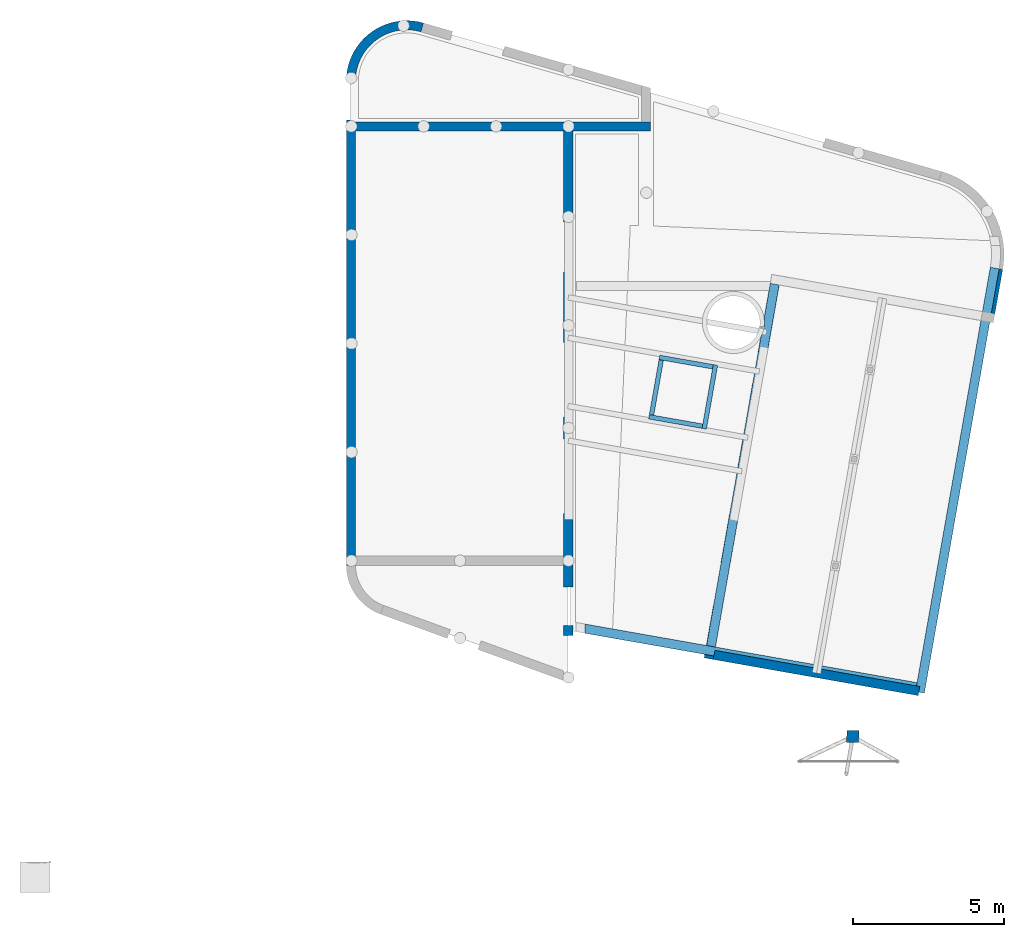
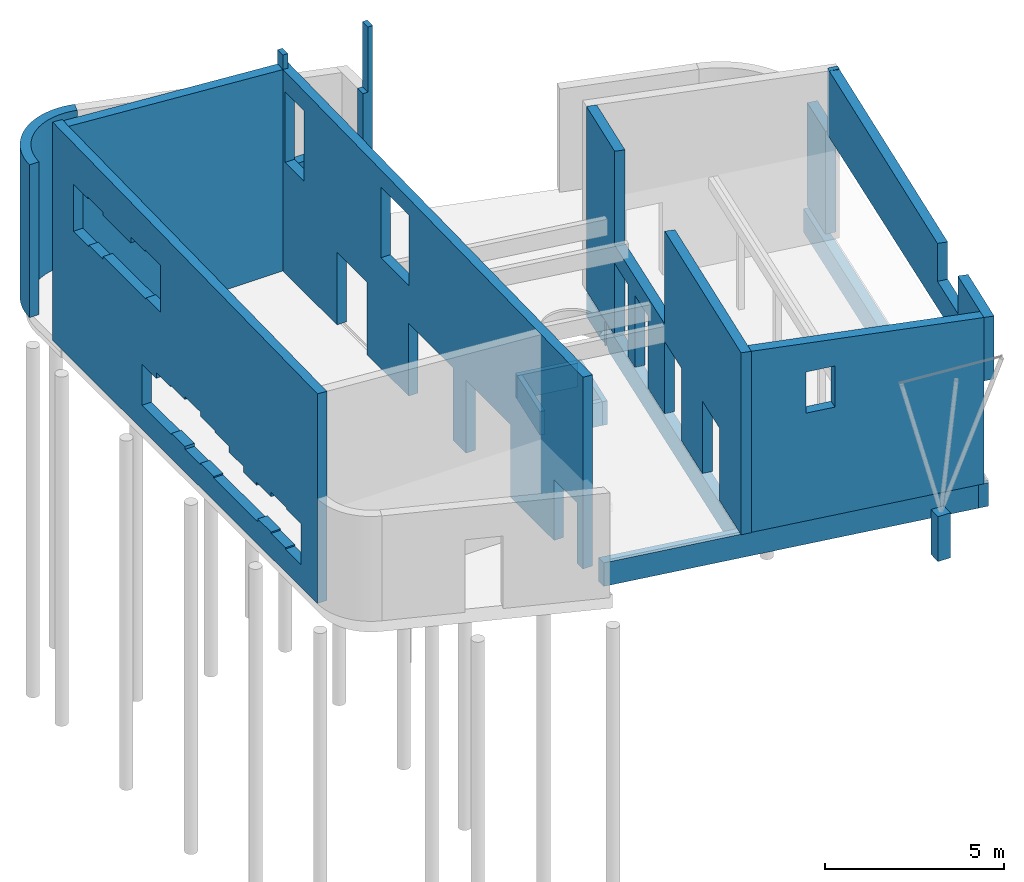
# One storey, part 2 of 3: 15 walls, 19 openings.
"""IFC2X3 building model written with IfcOpenShell, lengths in millimetres."""

from ifc_helpers import new_model, entity, si_unit, converted_unit, derived_unit, direction, frame, frame_2d, origin, place, context, subcontext, project, spatial, polyline, circle_curve, parameter, trimmed, segment, composite_curve, rectangle, outline, extrude, clip, bounded_halfspace, material, layer, layer_set, layer_usage, type_object, element, save


model = new_model("IFC2X3")

# Units and contexts
model_context = context("Model", 3, precision=0.01, world=origin(), true_north=direction((6.12303176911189e-17, 1.0)))
context_of_model = context(None, 3, precision=0.01, world=origin(), true_north=direction((6.12303176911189e-17, 1.0)))
body_context = subcontext(model_context, "Body", "Model", "MODEL_VIEW")
ifc_project = project(units=[si_unit("LENGTHUNIT", "METRE", prefix="MILLI"), si_unit("AREAUNIT", "SQUARE_METRE"), si_unit("VOLUMEUNIT", "CUBIC_METRE"), converted_unit("PLANEANGLEUNIT", "DEGREE", entity("IfcRatioMeasure", 0.0174532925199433), si_unit("PLANEANGLEUNIT", "RADIAN"), dimensions=[0, 0, 0, 0, 0, 0, 0]), si_unit("MASSUNIT", "GRAM", prefix="KILO"), derived_unit("MASSDENSITYUNIT", [(si_unit("MASSUNIT", "GRAM", prefix="KILO"), 1), (si_unit("LENGTHUNIT", "METRE"), -3)]), derived_unit("MOMENTOFINERTIAUNIT", [(si_unit("LENGTHUNIT", "METRE"), 4)]), si_unit("TIMEUNIT", "SECOND"), si_unit("FREQUENCYUNIT", "HERTZ"), si_unit("THERMODYNAMICTEMPERATUREUNIT", "DEGREE_CELSIUS"), derived_unit("THERMALTRANSMITTANCEUNIT", [(si_unit("MASSUNIT", "GRAM", prefix="KILO"), 1), (si_unit("THERMODYNAMICTEMPERATUREUNIT", "KELVIN"), -1), (si_unit("TIMEUNIT", "SECOND"), -3)]), derived_unit("VOLUMETRICFLOWRATEUNIT", [(si_unit("LENGTHUNIT", "METRE"), 3), (si_unit("TIMEUNIT", "SECOND"), -1)]), si_unit("ELECTRICCURRENTUNIT", "AMPERE"), si_unit("ELECTRICVOLTAGEUNIT", "VOLT"), si_unit("POWERUNIT", "WATT"), si_unit("FORCEUNIT", "NEWTON", prefix="KILO"), si_unit("ILLUMINANCEUNIT", "LUX"), si_unit("LUMINOUSFLUXUNIT", "LUMEN"), si_unit("LUMINOUSINTENSITYUNIT", "CANDELA"), derived_unit("USERDEFINED", [(si_unit("MASSUNIT", "GRAM", prefix="KILO"), -1), (si_unit("LENGTHUNIT", "METRE"), -2), (si_unit("TIMEUNIT", "SECOND"), 3), (si_unit("LUMINOUSFLUXUNIT", "LUMEN"), 1)]), derived_unit("LINEARVELOCITYUNIT", [(si_unit("LENGTHUNIT", "METRE"), 1), (si_unit("TIMEUNIT", "SECOND"), -1)]), si_unit("PRESSUREUNIT", "PASCAL"), derived_unit("USERDEFINED", [(si_unit("LENGTHUNIT", "METRE"), -2), (si_unit("MASSUNIT", "GRAM", prefix="KILO"), 1), (si_unit("TIMEUNIT", "SECOND"), -2)]), derived_unit("LINEARFORCEUNIT", [(si_unit("MASSUNIT", "GRAM", prefix="KILO"), 1), (si_unit("LENGTHUNIT", "METRE"), 1), (si_unit("TIMEUNIT", "SECOND"), -2), (si_unit("LENGTHUNIT", "METRE"), -1)]), derived_unit("PLANARFORCEUNIT", [(si_unit("MASSUNIT", "GRAM", prefix="KILO"), 1), (si_unit("LENGTHUNIT", "METRE"), 1), (si_unit("TIMEUNIT", "SECOND"), -2), (si_unit("LENGTHUNIT", "METRE"), -2)])], contexts=[model_context, context_of_model])

# Site, building, storey
site_placement = place(None, origin())
site = spatial("IfcSite", under=ifc_project, at=site_placement, Name="Default", CompositionType="ELEMENT")
building_placement = place(site_placement, origin())
building = spatial("IfcBuilding", under=site, at=building_placement, Name="IFc", CompositionType="ELEMENT")
storey_placement = place(building_placement, frame((0.0, 0.0, -70.0)))
storey = spatial("IfcBuildingStorey", under=building, at=storey_placement, Name="00 begane grond b.k. ruwe vloer", CompositionType="ELEMENT", Elevation=-70.0)

# Wall, opening
ifc_material_1 = material(Name="IMd_underlayment")
ifc_layer_1 = layer(ifc_material_1, 18.0)
ifc_material_2 = material(Name="IMd_hout")
ifc_layer_2 = layer(ifc_material_2, 270.0)
ifc_layer_3 = layer(ifc_material_1, 18.0)
ifc_layer_set_1 = layer_set([ifc_layer_1, ifc_layer_2, ifc_layer_3], Name="Basic Wall:NLRS_28_WA HSB_d=271")
ifc_layer_usage_1 = layer_usage(ifc_layer_set_1, "AXIS2", "NEGATIVE", 153.0)
wall_type_1 = type_object("IfcWallType", Name="Basic Wall:NLRS_28_WA HSB_d=271", PredefinedType="STANDARD", material=ifc_layer_set_1)
wall_1_placement = place(storey_placement, frame((19912.6696056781, 24397.0, 70.0), z_axis=(0.0, 0.0, 1.0), x_axis=(-1.0, 0.0, 0.0)))
wall_1 = element("IfcWallStandardCase", 1, at=wall_1_placement, inside=storey, type_object=wall_type_1, material=ifc_layer_usage_1, Name="Basic Wall:NLRS_28_WA HSB_d=271", ObjectType="Basic Wall:NLRS_28_WA HSB_d=271", context=body_context, shape_type="Clipping", body=[
    clip(extrude(rectangle(XDim=9787.66960567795, YDim=306.0, at=frame_2d((4893.83480283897, -5.25801624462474e-13), x_axis=(-1.0, 0.0))), origin(), (0.0, 0.0, 1.0), 7346.55553547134), bounded_halfspace(frame((2887.66960567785, -153.0, 6861.70889047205), z_axis=(0.0700806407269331, -0.0200951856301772, -0.997338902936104), x_axis=(0.958704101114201, -0.274902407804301, 0.0729048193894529)), True, frame((2887.66960567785, -153.0, 6861.70889047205)), polyline([(0.0, 0.0), (6900.0, 0.0), (6900.0, 306.0), (0.0, 306.0), (0.0, 0.0)]))),
])
opening_1_placement = place(wall_1_placement, origin())
element("IfcOpeningElement", 2, at=opening_1_placement, cuts=wall_1, Name="Basic Wall:NLRS_28_WA HSB_d=271", ObjectType="Opening", context=body_context, shape_type="SweptSolid", body=[
    extrude(outline(polyline([(-1670.11307045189, -4243.33333333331), (911.556535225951, -4243.33333333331), (911.556535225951, 1306.66666666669), (758.556535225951, 1306.66666666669), (758.556535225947, 2936.66666666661), (-1670.1130704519, 2936.66666666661), (-1670.11307045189, -4243.33333333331)])), frame((1064.55653522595, 153.0, 6436.66666666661), z_axis=(0.0, -1.0, 0.0), x_axis=(-1.0, 0.0, 0.0)), (0.0, 0.0, 1.0), 306.0),
])

# Wall, openings
ifc_layer_usage_2 = layer_usage(ifc_layer_set_1, "AXIS2", "NEGATIVE", 153.0)
wall_2_placement = place(storey_placement, frame((17178.0, 5903.98538399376, 60.0), z_axis=(0.0, 0.0, 1.0), x_axis=(0.0, 1.0, 0.0)))
wall_2 = element("IfcWallStandardCase", 3, at=wall_2_placement, inside=storey, type_object=wall_type_1, material=ifc_layer_usage_2, Name="Basic Wall:NLRS_28_WA HSB_d=271", ObjectType="Basic Wall:NLRS_28_WA HSB_d=271", context=body_context, shape_type="Clipping", body=[
    clip(clip(extrude(outline(polyline([(1619.46869295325, -153.0), (18646.0146160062, -153.0), (18646.0146160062, 153.0), (18340.0146160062, 153.0), (4246.01461600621, 153.0), (3940.01461600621, 153.0), (1619.46869295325, 153.0), (1619.46869295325, -153.0)])), origin(), (0.0, 0.0, 1.0), 6871.70889047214), bounded_halfspace(frame((1619.46869295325, -153.0, 6507.1424668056), z_axis=(0.0200951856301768, 0.0700806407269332, -0.997338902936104), x_axis=(0.274902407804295, 0.958704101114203, 0.0729048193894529)), True, frame((1619.46869295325, -153.0, 6507.1424668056)), polyline([(0.0, 0.0), (17026.545923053, 0.0), (17026.545923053, 306.0), (16720.545923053, 306.0), (2626.54592305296, 306.0), (2320.54592305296, 306.0), (0.0, 306.0), (0.0, 0.0)]))), bounded_halfspace(frame((18340.0146160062, -153.0, 10.0), z_axis=(-1.0, 0.0, 0.0), x_axis=(0.0, -1.0, 0.0)), True, frame((18340.0146160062, -153.0, 10.0), z_axis=(-1.0, 0.0, 0.0), x_axis=(0.0, -1.0, 0.0)), polyline([(0.0, 0.0), (0.0, 3500.0), (-306.0, 3500.0), (-306.0, 0.0), (0.0, 0.0)]))),
])
opening_2_placement = place(wall_2_placement, origin())
element("IfcOpeningElement", 4, at=opening_2_placement, cuts=wall_2, Name="Basic Wall:NLRS_28_WA HSB_d=271", ObjectType="Opening", context=body_context, shape_type="SweptSolid", body=[
    extrude(rectangle(XDim=2400.0, YDim=1567.0, at=frame_2d((0.0, 0.0), x_axis=(0.0, 1.0))), frame((12094.6040001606, 153.0, 4970.0), z_axis=(0.0, -1.0, 0.0), x_axis=(-1.0, 0.0, 0.0)), (0.0, 0.0, 1.0), 306.0),
])
opening_3_placement = place(wall_2_placement, origin())
element("IfcOpeningElement", 5, at=opening_3_placement, cuts=wall_2, Name="Basic Wall:NLRS_28_WA HSB_d=271", ObjectType="Opening", context=body_context, shape_type="SweptSolid", body=[
    extrude(rectangle(XDim=2400.00000000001, YDim=1064.0, at=frame_2d((0.0, 0.0), x_axis=(0.0, 1.0))), frame((17702.0146160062, 153.0, 4970.0), z_axis=(0.0, -1.0, 0.0), x_axis=(-1.0, 0.0, 0.0)), (0.0, 0.0, 1.0), 306.0),
])
opening_4_placement = place(wall_2_placement, origin())
element("IfcOpeningElement", 6, at=opening_4_placement, cuts=wall_2, Name="Basic Wall:NLRS_28_WA HSB_d=271", ObjectType="Opening", context=body_context, shape_type="SweptSolid", body=[
    extrude(rectangle(XDim=2070.0, YDim=1280.00000000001, at=frame_2d((0.0, -4.54747350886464e-13), x_axis=(0.0, 1.0))), frame((2584.75540203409, 153.0, 1035.0), z_axis=(0.0, -1.0, 0.0), x_axis=(1.0, 0.0, 0.0)), (0.0, 0.0, 1.0), 306.0),
])
opening_5_placement = place(wall_2_placement, origin())
element("IfcOpeningElement", 7, at=opening_5_placement, cuts=wall_2, Name="Basic Wall:NLRS_28_WA HSB_d=271", ObjectType="Opening", context=body_context, shape_type="SweptSolid", body=[
    extrude(rectangle(XDim=2470.00000000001, YDim=2467.0, at=frame_2d((0.0, 0.0), x_axis=(0.0, 1.0))), frame((6896.01461570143, 153.0, 1235.0), z_axis=(0.0, -1.0, 0.0), x_axis=(1.0, 0.0, 0.0)), (0.0, 0.0, 1.0), 306.0),
])
opening_6_placement = place(wall_2_placement, origin())
element("IfcOpeningElement", 8, at=opening_6_placement, cuts=wall_2, Name="Basic Wall:NLRS_28_WA HSB_d=271", ObjectType="Opening", context=body_context, shape_type="SweptSolid", body=[
    extrude(rectangle(XDim=2470.0, YDim=2467.0, at=frame_2d((0.0, 0.0), x_axis=(0.0, 1.0))), frame((10096.0146157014, 153.0, 1235.0), z_axis=(0.0, -1.0, 0.0), x_axis=(1.0, 0.0, 0.0)), (0.0, 0.0, 1.0), 306.0),
])
opening_7_placement = place(wall_2_placement, origin())
element("IfcOpeningElement", 9, at=opening_7_placement, cuts=wall_2, Name="Basic Wall:NLRS_28_WA HSB_d=271", ObjectType="Opening", context=body_context, shape_type="SweptSolid", body=[
    extrude(rectangle(XDim=2469.99999999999, YDim=1667.00000000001, at=frame_2d((-2.1600499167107e-12, -2.38742359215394e-12), x_axis=(0.0, 1.0))), frame((14496.0146160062, 153.0, 1235.0), z_axis=(0.0, -1.0, 0.0), x_axis=(1.0, 0.0, 0.0)), (0.0, 0.0, 1.0), 306.0),
])
opening_8_placement = place(wall_2_placement, origin())
element("IfcOpeningElement", 10, at=opening_8_placement, cuts=wall_2, Name="Basic Wall:NLRS_28_WA HSB_d=271", ObjectType="Opening", context=body_context, shape_type="SweptSolid", body=[
    extrude(rectangle(XDim=7190.00000000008, YDim=1400.98239480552, at=frame_2d((-5.6843418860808e-13, 1.13686837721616e-12), x_axis=(0.0, 1.0))), frame((918.977495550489, 153.0, 7095.0), z_axis=(0.0, -1.0, 0.0), x_axis=(-1.0, 0.0, 0.0)), (0.0, 0.0, 1.0), 306.0),
])
opening_9_placement = place(wall_2_placement, origin())
element("IfcOpeningElement", 11, at=opening_9_placement, cuts=wall_2, Name="Basic Wall:NLRS_28_WA HSB_d=271", ObjectType="Opening", context=body_context, shape_type="SweptSolid", body=[
    extrude(rectangle(XDim=2070.0, YDim=1199.26721811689, at=frame_2d((0.0, 4.54747350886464e-13), x_axis=(0.0, 1.0))), frame((1007.61038852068, 153.0, 1035.0), z_axis=(0.0, -1.0, 0.0), x_axis=(1.0, 0.0, 0.0)), (0.0, 0.0, 1.0), 306.0),
])

ifc_layer_usage_3 = layer_usage(ifc_layer_set_1, "AXIS2", "NEGATIVE", 153.0)
wall_3_placement = place(storey_placement, frame((9972.0, 25897.4538590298, 0.0), z_axis=(0.0, 0.0, 1.0), x_axis=(0.0, -1.0, 0.0)))
wall_3 = element("IfcWallStandardCase", 12, at=wall_3_placement, inside=storey, type_object=wall_type_1, material=ifc_layer_usage_3, Name="Basic Wall:NLRS_28_WA HSB_d=271", ObjectType="Basic Wall:NLRS_28_WA HSB_d=271", context=body_context, shape_type="Clipping", body=[
    clip(extrude(outline(polyline([(1286.08411395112, -153.0), (16053.8255288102, -153.0), (16053.4538590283, 153.0), (15747.4538590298, 153.0), (1653.45385902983, 153.0), (1347.45385902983, 153.0), (1286.08411395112, 153.0), (1286.08411395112, -153.0)])), origin(), (0.0, 0.0, 1.0), 7439.29395710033), bounded_halfspace(frame((1286.08411395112, -153.0, 7439.29395710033), z_axis=(-0.0200951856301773, -0.0700806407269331, -0.997338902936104), x_axis=(-0.274902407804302, -0.958704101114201, 0.0729048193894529)), True, frame((1286.08411395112, -153.0, 7439.29395710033)), polyline([(0.0, 0.0), (14767.7414148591, 0.0), (14767.3697450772, 306.0), (14461.3697450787, 306.0), (367.369745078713, 306.0), (61.3697450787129, 306.0), (0.0, 306.0), (0.0, 0.0)]))),
])
opening_10_placement = place(wall_3_placement, origin())
element("IfcOpeningElement", 13, at=opening_10_placement, cuts=wall_3, Name="Basic Wall:NLRS_28_WA HSB_d=271", ObjectType="Opening", context=body_context, shape_type="SweptSolid", body=[
    extrude(outline(polyline([(-2434.15789473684, -928.947368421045), (-1571.15789473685, -928.947368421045), (-1571.15789473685, -878.947368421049), (-771.157894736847, -878.947368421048), (-771.157894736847, -778.947368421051), (1584.84210526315, -778.947368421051), (1628.84210526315, -778.947368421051), (1628.84210526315, -728.947368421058), (2428.84210526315, -728.947368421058), (2428.84210526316, 871.05263157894), (1565.84210526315, 871.052631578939), (1565.84210526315, 821.052631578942), (765.842105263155, 821.052631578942), (765.842105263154, 621.052631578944), (-771.157894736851, 621.052631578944), (-771.157894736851, 721.052631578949), (-1634.15789473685, 721.052631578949), (-1634.15789473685, 671.052631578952), (-2434.15789473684, 671.052631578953), (-2434.15789473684, -928.947368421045)])), frame((4877.24780486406, 153.0, 5348.94736842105), z_axis=(0.0, -1.0, 0.0), x_axis=(1.0, 0.0, 0.0)), (0.0, 0.0, 1.0), 306.0),
])
opening_11_placement = place(wall_3_placement, origin())
element("IfcOpeningElement", 14, at=opening_11_placement, cuts=wall_3, Name="Basic Wall:NLRS_28_WA HSB_d=271", ObjectType="Opening", context=body_context, shape_type="SweptSolid", body=[
    extrude(outline(polyline([(-842.105263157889, -2872.10526315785), (-842.105263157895, -4535.10526315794), (557.894736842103, -4535.10526315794), (557.894736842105, -3735.10526315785), (757.894736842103, -3735.10526315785), (757.894736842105, -2935.10526315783), (807.894736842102, -2935.10526315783), (807.894736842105, -2135.10526315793), (907.894736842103, -2135.10526315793), (907.894736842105, -1272.10526315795), (757.894736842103, -1272.10526315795), (757.894736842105, -472.105263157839), (707.894736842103, -472.105263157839), (707.894736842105, 327.894736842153), (507.894736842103, 327.894736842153), (507.894736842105, 1127.89473684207), (307.894736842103, 1127.89473684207), (307.894736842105, 1864.89473684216), (407.894736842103, 1864.89473684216), (407.894736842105, 2664.89473684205), (557.894736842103, 2664.89473684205), (557.894736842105, 3527.89473684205), (507.894736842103, 3527.89473684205), (507.894736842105, 4327.89473684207), (-892.105263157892, 4327.89473684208), (-892.105263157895, 3464.89473684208), (-842.105263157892, 3464.89473684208), (-842.105263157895, 2664.89473684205), (-792.105263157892, 2664.89473684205), (-792.105263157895, 1927.89473684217), (-892.105263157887, 1927.89473684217), (-892.105263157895, -535.105263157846), (-842.105263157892, -535.105263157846), (-842.105263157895, -1272.10526315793), (-892.105263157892, -1272.10526315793), (-892.105263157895, -2135.10526315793), (-792.105263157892, -2135.10526315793), (-792.105263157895, -2872.10526315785), (-842.105263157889, -2872.10526315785)])), frame((10801.0591221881, 153.0, 1662.1052631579), z_axis=(0.0, 1.0, 0.0), x_axis=(0.0, 0.0, 1.0)), (0.0, 0.0, -1.0), 306.0),
])
opening_12_placement = place(wall_3_placement, origin())
element("IfcOpeningElement", 15, at=opening_12_placement, cuts=wall_3, Name="Basic Wall:NLRS_28_WA HSB_d=271", ObjectType="Opening", context=body_context, shape_type="SweptSolid", body=[
    extrude(rectangle(XDim=5550.0, YDim=1285.91700239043, at=frame_2d((2.1600499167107e-12, 1.59161572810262e-12), x_axis=(0.0, 1.0))), frame((643.125612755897, 153.0, 7975.0), z_axis=(0.0, -1.0, 0.0), x_axis=(-1.0, 0.0, 0.0)), (0.0, 0.0, 1.0), 306.0),
])

# Wall
ifc_layer_usage_4 = layer_usage(ifc_layer_set_1, "AXIS2", "POSITIVE", -153.0)
wall_4_placement = place(storey_placement, frame((9971.99964898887, 25897.1261254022, 0.0)))
element("IfcWallStandardCase", 16, at=wall_4_placement, inside=storey, type_object=wall_type_1, material=ifc_layer_usage_4, Name="Basic Wall:NLRS_28_WA HSB_d=271", ObjectType="Basic Wall:NLRS_28_WA HSB_d=271", context=body_context, shape_type="SweptSolid", body=[
    extrude(outline(composite_curve([segment(trimmed(circle_curve(frame_2d((1856.07848287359, -3.97582175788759), x_axis=(1.0, 0.0)), 2009.08274108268), [parameter(73.9929851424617)], [parameter(179.877269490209)], True, "PARAMETER"), True, "CONTINUOUS"), segment(polyline([(-152.999648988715, 0.327733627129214), (153.000351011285, -0.013531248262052)]), True, "CONTINUOUS"), segment(trimmed(circle_curve(frame_2d((1856.07848287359, -3.97582175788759), x_axis=(1.0, 0.0)), 1703.08274108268), [parameter(73.9929851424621)], [parameter(179.866698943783)], True, "PARAMETER"), False, "CONTINUOUS"), segment(polyline([(2325.71213786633, 1633.07489617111), (2410.09318111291, 1927.21064636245)]), True, "CONTINUOUS")], self_intersect=False)), origin(), (0.0, 0.0, 1.0), 5200.0),
])

# Wall, openings
ifc_layer_usage_5 = layer_usage(ifc_layer_set_1, "AXIS2", "NEGATIVE", 153.0)
wall_5_placement = place(storey_placement, frame((24025.4009590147, 19161.6606302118, 50.0), z_axis=(0.0, 0.0, 1.0), x_axis=(-0.173648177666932, -0.984807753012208, 0.0)))
wall_5 = element("IfcWallStandardCase", 17, at=wall_5_placement, inside=storey, type_object=wall_type_1, material=ifc_layer_usage_5, Name="Basic Wall:NLRS_28_WA HSB_d=271", ObjectType="Basic Wall:NLRS_28_WA HSB_d=271", context=body_context, shape_type="Clipping", body=[
    clip(clip(extrude(rectangle(XDim=12606.0, YDim=306.000000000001, at=frame_2d((6303.0, -1.08002495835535e-12), x_axis=(-1.0, 0.0))), origin(), (0.0, 0.0, 1.0), 6292.36164978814), bounded_halfspace(frame((6384.0, -153.0, 6243.58244995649), z_axis=(-0.00762051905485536, -0.0725054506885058, -0.997338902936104), x_axis=(-0.104248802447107, -0.991875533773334, 0.0729048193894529)), True, frame((6384.0, -153.0, 6243.58244995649)), polyline([(0.0, 0.0), (6222.0, 0.0), (6222.0, 306.0), (5916.0, 306.0), (0.0, 306.0), (0.0, 0.0)]))), bounded_halfspace(frame((0.0, -153.0, 6292.36164978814), z_axis=(-0.00762051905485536, -0.0725054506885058, -0.997338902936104), x_axis=(-0.104248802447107, -0.991875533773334, 0.0729048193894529)), True, frame((0.0, -153.0, 6292.36164978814)), polyline([(0.0, 0.0), (2300.0, 0.0), (2300.0, 306.0), (0.0, 306.0), (0.0, 0.0)]))),
])
opening_13_placement = place(wall_5_placement, origin())
element("IfcOpeningElement", 18, at=opening_13_placement, cuts=wall_5, Name="Basic Wall:NLRS_28_WA HSB_d=271", ObjectType="Opening", context=body_context, shape_type="SweptSolid", body=[
    extrude(rectangle(XDim=2457.0, YDim=1084.0, at=frame_2d((0.0, 0.0), x_axis=(0.0, 1.0))), frame((4492.0, 153.0, 1228.5), z_axis=(0.0, -1.0, 0.0), x_axis=(1.0, 0.0, 0.0)), (0.0, 0.0, 1.0), 306.0),
])
opening_14_placement = place(wall_5_placement, origin())
element("IfcOpeningElement", 19, at=opening_14_placement, cuts=wall_5, Name="Basic Wall:NLRS_28_WA HSB_d=271", ObjectType="Opening", context=body_context, shape_type="SweptSolid", body=[
    extrude(outline(polyline([(-3020.60000000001, -996.0), (3082.40000000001, -996.0), (3082.40000000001, -986.0), (1479.4, -986.0), (1479.4, 1484.0), (79.399999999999, 1484.0), (79.3999999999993, -986.0), (-1620.6, -986.0), (-1620.6, 1484.0), (-3020.60000000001, 1484.0), (-3020.60000000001, -996.0)])), frame((9370.6, 153.0, 996.0), z_axis=(0.0, -1.0, 0.0), x_axis=(1.0, 0.0, 0.0)), (0.0, 0.0, 1.0), 306.0),
])
opening_15_placement = place(wall_5_placement, origin())
element("IfcOpeningElement", 20, at=opening_15_placement, cuts=wall_5, Name="Basic Wall:NLRS_28_WA HSB_d=271", ObjectType="Opening", context=body_context, shape_type="SweptSolid", body=[
    extrude(rectangle(XDim=7619.99999999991, YDim=4083.99999999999, at=frame_2d((4.32009983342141e-12, 0.0), x_axis=(0.0, 1.0))), frame((4342.0, 153.0, 6890.0), z_axis=(0.0, -1.0, 0.0), x_axis=(-1.0, 0.0, 0.0)), (0.0, 0.0, 1.0), 306.0),
])
opening_16_placement = place(wall_5_placement, origin())
element("IfcOpeningElement", 21, at=opening_16_placement, cuts=wall_5, Name="Basic Wall:NLRS_28_WA HSB_d=271", ObjectType="Opening", context=body_context, shape_type="SweptSolid", body=[
    extrude(outline(polyline([(812.333333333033, -2002.0), (822.333333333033, -2002.0), (822.333333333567, 1543.0), (-1634.66666666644, 1543.0), (-1634.6666666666, 459.0), (812.333333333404, 459.0), (812.333333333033, -2002.0)])), frame((1849.0, 153.0, 822.333333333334), z_axis=(0.0, -1.0, 0.0), x_axis=(0.0, 0.0, -1.0)), (0.0, 0.0, 1.0), 306.0),
])

# Wall, opening
ifc_layer_usage_6 = layer_usage(ifc_layer_set_1, "AXIS2", "NEGATIVE", 153.0)
wall_6_placement = place(storey_placement, frame((28808.8142595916, 5673.10820762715, 60.0), z_axis=(0.0, 0.0, 1.0), x_axis=(-0.984807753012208, 0.173648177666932, 0.0)))
wall_6 = element("IfcWallStandardCase", 22, at=wall_6_placement, inside=storey, type_object=wall_type_1, material=ifc_layer_usage_6, Name="Basic Wall:NLRS_28_WA HSB_d=271", ObjectType="Basic Wall:NLRS_28_WA HSB_d=271", context=body_context, shape_type="Clipping", body=[
    clip(extrude(rectangle(XDim=6900.00505181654, YDim=306.0, at=frame_2d((3450.00252590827, -4.68958205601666e-13), x_axis=(-1.0, 0.0))), origin(), (0.0, 0.0, 1.0), 6166.13330258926), bounded_halfspace(frame((0.0101037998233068, -153.0, 5664.51119401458), z_axis=(0.0725054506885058, -0.00762051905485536, -0.997338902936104), x_axis=(0.991875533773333, -0.104248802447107, 0.0729048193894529)), True, frame((0.0101037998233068, -153.0, 5664.51119401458)), polyline([(0.0, 0.0), (6899.99494801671, 0.0), (6899.99494801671, 306.0), (-0.0101037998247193, 306.0), (0.0, 0.0)]))),
])
opening_17_placement = place(wall_6_placement, origin())
element("IfcOpeningElement", 23, at=opening_17_placement, cuts=wall_6, Name="Basic Wall:NLRS_28_WA HSB_d=271", ObjectType="Opening", context=body_context, shape_type="SweptSolid", body=[
    extrude(rectangle(XDim=1400.0, YDim=863.000000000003, at=frame_2d((2.8421709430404e-13, 2.21689333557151e-12), x_axis=(1.0, 0.0))), frame((4850.00505181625, 153.0, 4370.0), z_axis=(0.0, -1.0, 0.0), x_axis=(0.0, 0.0, -1.0)), (0.0, 0.0, 1.0), 306.0),
])

# Wall, openings
ifc_layer_usage_7 = layer_usage(ifc_layer_set_1, "AXIS2", "NEGATIVE", 153.0)
wall_7_placement = place(storey_placement, frame((31433.4178219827, 19679.6214014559, 60.0), z_axis=(0.0, 0.0, 1.0), x_axis=(-0.173615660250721, -0.984813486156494, 0.0)))
wall_7 = element("IfcWallStandardCase", 24, at=wall_7_placement, inside=storey, type_object=wall_type_1, material=ifc_layer_usage_7, Name="Basic Wall:NLRS_28_WA HSB_d=271", ObjectType="Basic Wall:NLRS_28_WA HSB_d=271", context=body_context, shape_type="Clipping", body=[
    clip(clip(clip(extrude(rectangle(XDim=14402.4854714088, YDim=305.999999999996, at=frame_2d((7201.2427357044, -2.8421709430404e-14), x_axis=(-1.0, 0.0))), origin(), (0.0, 0.0, 1.0), 5758.52320032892), bounded_halfspace(frame((12277.9916057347, -153.0, 5678.41032464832), z_axis=(-0.00762291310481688, -0.0725051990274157, -0.997338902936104), x_axis=(-0.104281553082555, -0.991872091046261, 0.0729048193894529)), True, frame((12277.9916057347, -153.0, 5678.41032464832)), polyline([(0.0, 0.0), (1818.48376170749, 0.0), (2124.48376187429, 0.0), (2124.49386567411, 306.0), (-0.000196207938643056, 306.0), (0.0, 0.0)]))), bounded_halfspace(frame((1796.47536073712, -153.0, 5758.52320032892), z_axis=(-0.00762291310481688, -0.0725051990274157, -0.997338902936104), x_axis=(-0.104281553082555, -0.991872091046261, 0.0729048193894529)), True, frame((1796.47536073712, -153.0, 5758.52320032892)), polyline([(0.0, 0.0), (8818.48990496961, 0.0), (8818.4899049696, 306.0), (0.0101037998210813, 306.0), (0.0, 0.0)]))), bounded_halfspace(frame((1490.47536057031, -153.0, 3500.0), z_axis=(-1.0, 3.30189536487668e-05, 0.0), x_axis=(-3.30189536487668e-05, -1.0, 0.0)), True, frame((1490.47536057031, -153.0, 3500.0), z_axis=(-1.0, 3.30189536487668e-05, 0.0), x_axis=(-3.30189536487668e-05, -1.0, 0.0)), polyline([(0.0, 0.0), (-306.0, 0.0), (-306.0, -3500.0), (0.0, -3500.0), (0.0, 0.0)]))),
])
opening_18_placement = place(wall_7_placement, origin())
element("IfcOpeningElement", 25, at=opening_18_placement, cuts=wall_7, Name="Basic Wall:NLRS_28_WA HSB_d=271", ObjectType="Opening", context=body_context, shape_type="SweptSolid", body=[
    extrude(outline(polyline([(-831.549140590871, -3145.0), (831.521401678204, -3145.0), (831.521401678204, 3145.0), (-831.493662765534, 3145.0), (-831.549140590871, -3145.0)])), frame((11446.4866673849, 153.0, 7545.0), z_axis=(0.0, -1.0, 0.0), x_axis=(-1.0, 0.0, 0.0)), (0.0, 0.0, 1.0), 306.0),
])
opening_19_placement = place(wall_7_placement, origin())
element("IfcOpeningElement", 26, at=opening_19_placement, cuts=wall_7, Name="Basic Wall:NLRS_28_WA HSB_d=271", ObjectType="Opening", context=body_context, shape_type="SweptSolid", body=[
    extrude(rectangle(XDim=7190.0, YDim=1643.48041255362, at=frame_2d((-2.50111042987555e-12, -4.54747350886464e-13), x_axis=(0.0, 1.0))), frame((821.740206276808, 153.0, 7095.0), z_axis=(0.0, -1.0, 0.0), x_axis=(-1.0, 0.0, 0.0)), (0.0, 0.0, 1.0), 306.0),
])

# Walls
ifc_material_3 = material(Name="IMd_beton_prefab")
ifc_layer_4 = layer(ifc_material_3, 300.0)
ifc_layer_set_2 = layer_set([ifc_layer_4], Name="Basic Wall:NLRS_16_WA Funderingsbalk_beton_prefab_300x800")
ifc_layer_usage_8 = layer_usage(ifc_layer_set_2, "AXIS2", "NEGATIVE", 150.0)
wall_type_2 = type_object("IfcWallType", Name="Basic Wall:NLRS_16_WA Funderingsbalk_beton_prefab_300x800", PredefinedType="STANDARD", material=ifc_layer_set_2)
wall_8_placement = place(storey_placement, frame((31320.0072792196, 19698.6966853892, -820.0), z_axis=(0.0, 0.0, 1.0), x_axis=(-0.173615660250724, -0.984813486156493, 0.0)))
element("IfcWallStandardCase", 27, at=wall_8_placement, inside=storey, type_object=wall_type_2, material=ifc_layer_usage_8, Name="Basic Wall:NLRS_16_WA Funderingsbalk_beton_prefab_300x800", ObjectType="Basic Wall:NLRS_16_WA Funderingsbalk_beton_prefab_300x800", context=body_context, shape_type="SweptSolid", body=[
    extrude(rectangle(XDim=14283.5773257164, YDim=299.999999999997, at=frame_2d((7141.78866285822, -7.53175299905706e-13), x_axis=(-1.0, 0.0))), origin(), (0.0, 0.0, 1.0), 800.0),
])
ifc_layer_usage_9 = layer_usage(ifc_layer_set_2, "AXIS2", "NEGATIVE", 150.0)
wall_9_placement = place(storey_placement, frame((28718.4814945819, 5805.81037170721, -820.0), z_axis=(0.0, 0.0, 1.0), x_axis=(-0.984807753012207, 0.173648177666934, 0.0)))
element("IfcWallStandardCase", 28, at=wall_9_placement, inside=storey, type_object=wall_type_2, material=ifc_layer_usage_9, Name="Basic Wall:NLRS_16_WA Funderingsbalk_beton_prefab_300x800", ObjectType="Basic Wall:NLRS_16_WA Funderingsbalk_beton_prefab_300x800", context=body_context, shape_type="SweptSolid", body=[
    extrude(outline(polyline([(11173.7991383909, -150.0), (11120.9010441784, 150.0), (0.0, 150.0), (0.00990568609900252, -150.0), (6787.99454638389, -150.0), (7087.99455528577, -150.0), (11173.7991383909, -150.0)])), origin(), (0.0, 0.0, 1.0), 800.0),
])
ifc_layer_usage_10 = layer_usage(ifc_layer_set_2, "AXIS2", "NEGATIVE", 150.0)
wall_10_placement = place(storey_placement, frame((21911.9315606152, 7158.26565717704, -820.0), z_axis=(0.0, 0.0, 1.0), x_axis=(0.173408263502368, 0.984850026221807, 0.0)))
element("IfcWallStandardCase", 29, at=wall_10_placement, inside=storey, type_object=wall_type_2, material=ifc_layer_usage_10, Name="Basic Wall:NLRS_16_WA Funderingsbalk_beton_prefab_300x800", ObjectType="Basic Wall:NLRS_16_WA Funderingsbalk_beton_prefab_300x800", context=body_context, shape_type="SweptSolid", body=[
    extrude(outline(composite_curve([segment(polyline([(-236.508465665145, -3050.99275777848), (63.491534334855, -3050.99275777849)]), True, "CONTINUOUS"), segment(polyline([(63.4915343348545, -3050.99275777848), (63.4915343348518, -2810.35050689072)]), True, "CONTINUOUS"), segment(polyline([(63.4915343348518, -2810.35050689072), (63.4915343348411, -1876.93577384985)]), True, "CONTINUOUS"), segment(trimmed(circle_curve(frame_2d((1043.98344574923, -1561.44312472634), x_axis=(-0.984814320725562, -0.17361092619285)), 1030.0), [parameter(351.381713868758)], [parameter(7.83877263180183)], True, "PARAMETER"), False, "CONTINUOUS"), segment(polyline([(14.2819934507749, -1586.2406878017), (63.4915343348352, -1585.63069020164)]), True, "CONTINUOUS"), segment(polyline([(63.4915343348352, -1585.63069020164), (63.4915343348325, -1536.77769355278)]), True, "CONTINUOUS"), segment(polyline([(63.4915343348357, -1536.77769355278), (14.2941975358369, -1536.14387347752)]), True, "CONTINUOUS"), segment(trimmed(circle_curve(frame_2d((1043.98344574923, -1561.44312472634), x_axis=(-0.984814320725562, -0.17361092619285)), 1030.0), [parameter(332.165561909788)], [parameter(348.594705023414)], True, "PARAMETER"), False, "CONTINUOUS"), segment(polyline([(63.4915343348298, -1245.95047560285), (63.4915343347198, 9139.97106696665)]), True, "CONTINUOUS"), segment(polyline([(63.4915343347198, 9139.97106696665), (-236.508465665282, 9140.04414996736)]), True, "CONTINUOUS"), segment(polyline([(-236.508465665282, 9140.04414996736), (-236.508465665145, -3050.99275777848)]), True, "CONTINUOUS")], self_intersect=False)), frame((9140.04414996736, 86.5084656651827, 0.0), z_axis=(0.0, 0.0, 1.0), x_axis=(0.0, 1.0, 0.0)), (0.0, 0.0, 1.0), 800.0),
])
ifc_material_4 = material(Name="IMd_beton_IHWG")
ifc_layer_5 = layer(ifc_material_4, 400.0)
ifc_layer_set_3 = layer_set([ifc_layer_5], Name="Basic Wall:NLRS_16_WA Funderingspoer_beton_ihwg_400x400x1530")
ifc_layer_usage_11 = layer_usage(ifc_layer_set_3, "AXIS2", "NEGATIVE", 200.0)
wall_type_3 = type_object("IfcWallType", Name="Basic Wall:NLRS_16_WA Funderingspoer_beton_ihwg_400x400x1530", PredefinedType="STANDARD", material=ifc_layer_set_3)
wall_11_placement = place(storey_placement, frame((26812.8593910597, 4159.81729893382, -820.0), z_axis=(0.0, 0.0, 1.0), x_axis=(-0.999390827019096, 0.0348994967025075, 0.0)))
element("IfcWallStandardCase", 30, at=wall_11_placement, inside=storey, type_object=wall_type_3, material=ifc_layer_usage_11, Name="Basic Wall:NLRS_16_WA Funderingspoer_beton_ihwg_400x400x1530", ObjectType="Basic Wall:NLRS_16_WA Funderingspoer_beton_ihwg_400x400x1530", context=body_context, shape_type="SweptSolid", body=[
    extrude(rectangle(XDim=400.000000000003, YDim=400.0, at=frame_2d((200.000000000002, -4.2632564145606e-14), x_axis=(-1.0, 0.0))), origin(), (0.0, 0.0, 1.0), 1529.99942378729),
])
ifc_layer_6 = layer(ifc_material_3, 150.0)
ifc_layer_set_4 = layer_set([ifc_layer_6], Name="Basic Wall:NLRS_16_WA Funderingsbalk_beton_prefab_150x810")
ifc_layer_usage_12 = layer_usage(ifc_layer_set_4, "AXIS2", "NEGATIVE", 75.0)
wall_type_4 = type_object("IfcWallType", Name="Basic Wall:NLRS_16_WA Funderingsbalk_beton_prefab_150x810", PredefinedType="STANDARD", material=ifc_layer_set_4)
wall_12_placement = place(storey_placement, frame((19854.0671839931, 14767.957686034, -820.0), z_axis=(0.0, 0.0, 1.0), x_axis=(0.984807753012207, -0.173648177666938, 0.0)))
element("IfcWallStandardCase", 31, at=wall_12_placement, inside=storey, type_object=wall_type_4, material=ifc_layer_usage_12, Name="Basic Wall:NLRS_16_WA Funderingsbalk_beton_prefab_150x810", ObjectType="Basic Wall:NLRS_16_WA Funderingsbalk_beton_prefab_150x810", context=body_context, shape_type="SweptSolid", body=[
    extrude(rectangle(XDim=1799.94683873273, YDim=150.000000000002, at=frame_2d((899.973419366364, 1.48503431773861e-12), x_axis=(-1.0, 0.0))), origin(), (0.0, 0.0, 1.0), 810.0),
])
ifc_layer_usage_13 = layer_usage(ifc_layer_set_4, "AXIS2", "NEGATIVE", 75.0)
wall_13_placement = place(storey_placement, frame((20201.3635393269, 16737.5731920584, -820.0), z_axis=(0.0, 0.0, 1.0), x_axis=(0.984807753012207, -0.173648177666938, 0.0)))
element("IfcWallStandardCase", 32, at=wall_13_placement, inside=storey, type_object=wall_type_4, material=ifc_layer_usage_13, Name="Basic Wall:NLRS_16_WA Funderingsbalk_beton_prefab_150x810", ObjectType="Basic Wall:NLRS_16_WA Funderingsbalk_beton_prefab_150x810", context=body_context, shape_type="SweptSolid", body=[
    extrude(rectangle(XDim=1799.94683873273, YDim=150.000000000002, at=frame_2d((899.973419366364, 4.19220214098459e-13), x_axis=(-1.0, 0.0))), origin(), (0.0, 0.0, 1.0), 810.0),
])
ifc_layer_usage_14 = layer_usage(ifc_layer_set_4, "AXIS2", "NEGATIVE", 75.0)
wall_14_placement = place(storey_placement, frame((20262.2005074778, 16650.6889972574, -820.0), z_axis=(0.0, 0.0, 1.0), x_axis=(-0.173648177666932, -0.984807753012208, 0.0)))
element("IfcWallStandardCase", 33, at=wall_14_placement, inside=storey, type_object=wall_type_4, material=ifc_layer_usage_14, Name="Basic Wall:NLRS_16_WA Funderingsbalk_beton_prefab_150x810", ObjectType="Basic Wall:NLRS_16_WA Funderingsbalk_beton_prefab_150x810", context=body_context, shape_type="SweptSolid", body=[
    extrude(rectangle(XDim=1850.0, YDim=149.999999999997, at=frame_2d((925.000000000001, -1.70530256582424e-13), x_axis=(-1.0, 0.0))), origin(), (0.0, 0.0, 1.0), 810.0),
])
ifc_layer_usage_15 = layer_usage(ifc_layer_set_4, "AXIS2", "NEGATIVE", 75.0)
wall_15_placement = place(storey_placement, frame((22060.8493359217, 16485.852671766, -820.0), z_axis=(0.0, 0.0, 1.0), x_axis=(-0.173648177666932, -0.984807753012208, 0.0)))
element("IfcWallStandardCase", 34, at=wall_15_placement, inside=storey, type_object=wall_type_4, material=ifc_layer_usage_15, Name="Basic Wall:NLRS_16_WA Funderingsbalk_beton_prefab_150x810", ObjectType="Basic Wall:NLRS_16_WA Funderingsbalk_beton_prefab_150x810", context=body_context, shape_type="SweptSolid", body=[
    extrude(rectangle(XDim=2150.0, YDim=149.999999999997, at=frame_2d((1075.0, 5.04485342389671e-13), x_axis=(-1.0, 0.0))), origin(), (0.0, 0.0, 1.0), 810.0),
])

save(model, "model.ifc")
